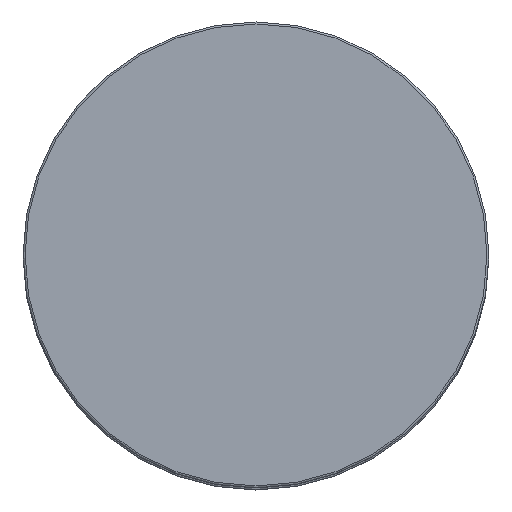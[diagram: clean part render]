
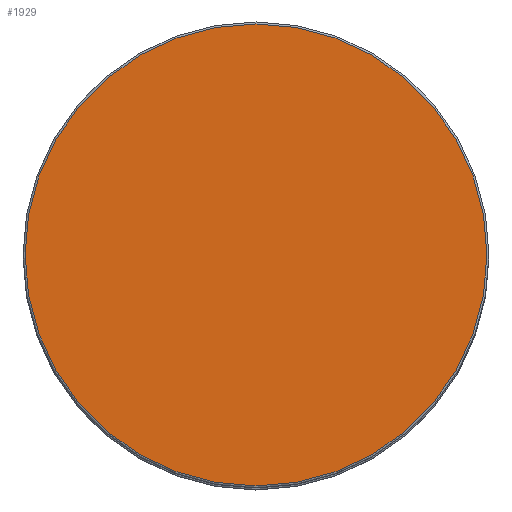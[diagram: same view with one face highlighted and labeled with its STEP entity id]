
A CAD part, top view. The second image highlights one B-rep face of the part: STEP entity #1929.
In plain terms, the highlighted planar face has unit normal (0, 0, 1).
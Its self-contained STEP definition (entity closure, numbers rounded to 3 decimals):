
#78=PLANE('',#2096);
#478=FACE_OUTER_BOUND('',#601,.T.);
#601=EDGE_LOOP('',(#1398));
#755=CIRCLE('',#2095,57.448);
#894=VERTEX_POINT('',#3049);
#1090=EDGE_CURVE('',#894,#894,#755,.T.);
#1398=ORIENTED_EDGE('',*,*,#1090,.F.);
#1929=ADVANCED_FACE('',(#478),#78,.F.);
#2095=AXIS2_PLACEMENT_3D('',#3051,#2404,#2405);
#2096=AXIS2_PLACEMENT_3D('',#3052,#2406,#2407);
#2404=DIRECTION('center_axis',(0.,0.,-1.));
#2405=DIRECTION('ref_axis',(-1.,0.,0.));
#2406=DIRECTION('center_axis',(0.,0.,-1.));
#2407=DIRECTION('ref_axis',(-1.,0.,0.));
#3049=CARTESIAN_POINT('',(57.448,0.,590.));
#3051=CARTESIAN_POINT('Origin',(0.,0.,590.));
#3052=CARTESIAN_POINT('Origin',(0.,0.,590.));
